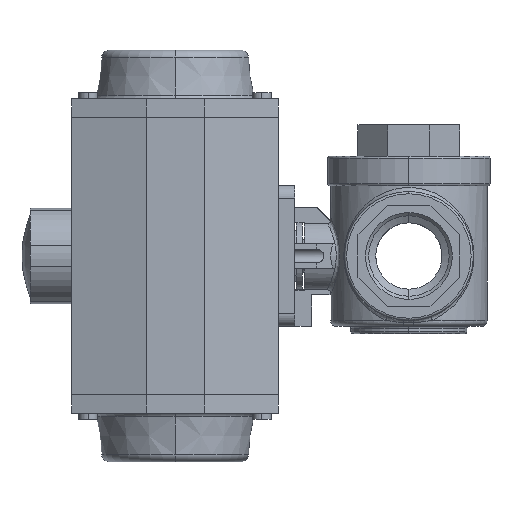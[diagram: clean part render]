
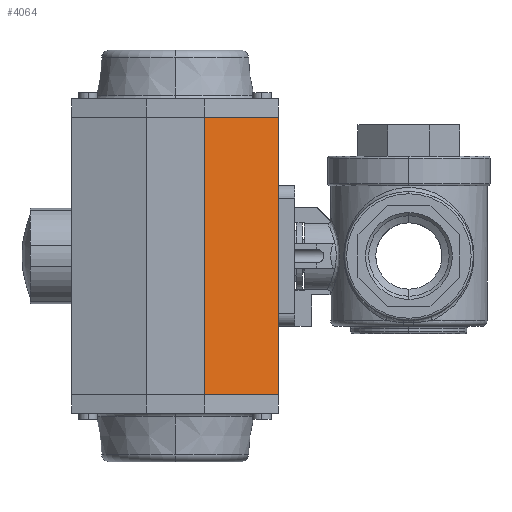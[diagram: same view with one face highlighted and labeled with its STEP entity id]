
A CAD part, left-side view. The second image highlights one B-rep face of the part: STEP entity #4064.
In plain terms, the highlighted planar face has unit normal (-0.967, -0.255, 0).
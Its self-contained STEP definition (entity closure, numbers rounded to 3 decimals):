
#192 = ORIENTED_EDGE ( 'NONE', *, *, #11959, .T. ) ;
#218 = ORIENTED_EDGE ( 'NONE', *, *, #11958, .F. ) ;
#4064 = ADVANCED_FACE ( 'NONE', ( #14653 ), #14640, .F. ) ;
#11378 = CARTESIAN_POINT ( 'NONE',  ( -42.5, -14., -67. ) ) ;
#11380 = CARTESIAN_POINT ( 'NONE',  ( -42.5, -14., 67. ) ) ;
#11384 = CARTESIAN_POINT ( 'NONE',  ( -33., -50., 67. ) ) ;
#11388 = CARTESIAN_POINT ( 'NONE',  ( -33., -50., -67. ) ) ;
#11523 = ORIENTED_EDGE ( 'NONE', *, *, #11961, .T. ) ;
#11549 = ORIENTED_EDGE ( 'NONE', *, *, #11957, .F. ) ;
#11957 = EDGE_CURVE ( 'NONE', #17197, #17192, #13526, .T. ) ;
#11958 = EDGE_CURVE ( 'NONE', #17192, #17193, #13516, .T. ) ;
#11959 = EDGE_CURVE ( 'NONE', #17195, #17193, #13532, .T. ) ;
#11961 = EDGE_CURVE ( 'NONE', #17197, #17195, #13527, .T. ) ;
#13516 = LINE ( 'NONE', #13530, #14038 ) ;
#13526 = LINE ( 'NONE', #13528, #14036 ) ;
#13527 = LINE ( 'NONE', #13538, #14033 ) ;
#13528 = CARTESIAN_POINT ( 'NONE',  ( -33., -50., -67. ) ) ;
#13529 = DIRECTION ( 'NONE',  ( -0.255, 0.967, 0. ) ) ;
#13530 = CARTESIAN_POINT ( 'NONE',  ( -42.5, -14., -67. ) ) ;
#13531 = DIRECTION ( 'NONE',  ( 0., 0., 1. ) ) ;
#13532 = LINE ( 'NONE', #13533, #14034 ) ;
#13533 = CARTESIAN_POINT ( 'NONE',  ( -33., -50., 67. ) ) ;
#13534 = DIRECTION ( 'NONE',  ( -0.255, 0.967, 0. ) ) ;
#13538 = CARTESIAN_POINT ( 'NONE',  ( -33., -50., -67. ) ) ;
#13539 = DIRECTION ( 'NONE',  ( 0., 0., 1. ) ) ;
#14033 = VECTOR ( 'NONE', #13539, 1000. ) ;
#14034 = VECTOR ( 'NONE', #13534, 1000. ) ;
#14036 = VECTOR ( 'NONE', #13529, 1000. ) ;
#14038 = VECTOR ( 'NONE', #13531, 1000. ) ;
#14640 = PLANE ( 'NONE',  #15290 ) ;
#14653 = FACE_OUTER_BOUND ( 'NONE', #16271, .T. ) ;
#14663 = CARTESIAN_POINT ( 'NONE',  ( -33., -50., -67. ) ) ;
#14664 = DIRECTION ( 'NONE',  ( 0.967, 0.255, 0. ) ) ;
#14665 = DIRECTION ( 'NONE',  ( -0.255, 0.967, 0. ) ) ;
#15290 = AXIS2_PLACEMENT_3D ( 'NONE', #14663, #14664, #14665 ) ;
#16271 = EDGE_LOOP ( 'NONE', ( #11523, #192, #218, #11549 ) ) ;
#17192 = VERTEX_POINT ( 'NONE', #11378 ) ;
#17193 = VERTEX_POINT ( 'NONE', #11380 ) ;
#17195 = VERTEX_POINT ( 'NONE', #11384 ) ;
#17197 = VERTEX_POINT ( 'NONE', #11388 ) ;
